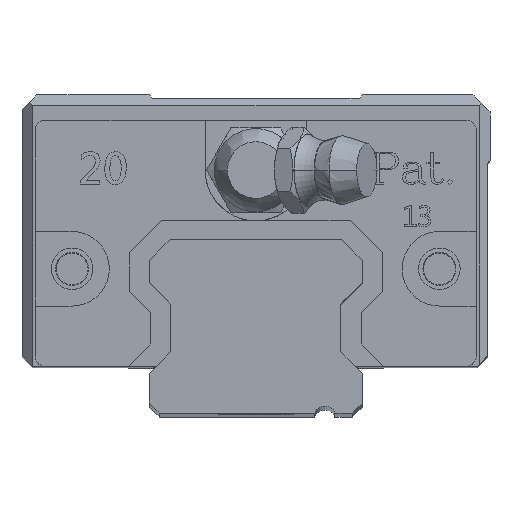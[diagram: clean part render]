
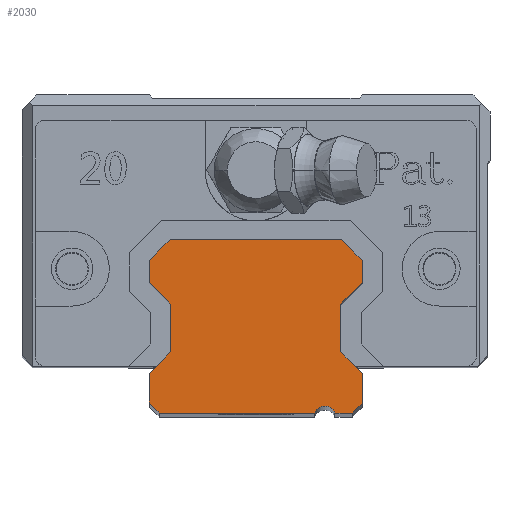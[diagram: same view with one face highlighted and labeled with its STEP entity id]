
A CAD part, top view. The second image highlights one B-rep face of the part: STEP entity #2030.
In plain terms, the highlighted planar face has unit normal (0, 0, 1).
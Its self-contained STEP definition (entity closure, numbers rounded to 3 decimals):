
#22 = CARTESIAN_POINT ( 'NONE',  ( -10., -10.6, 110. ) ) ;
#183 = CARTESIAN_POINT ( 'NONE',  ( -10., -10.6, 110. ) ) ;
#309 = VERTEX_POINT ( 'NONE', #2161 ) ;
#451 = LINE ( 'NONE', #9880, #15889 ) ;
#611 = CARTESIAN_POINT ( 'NONE',  ( 8., -4.1, 110. ) ) ;
#790 = CARTESIAN_POINT ( 'NONE',  ( 10., -13.4, 110. ) ) ;
#882 = DIRECTION ( 'NONE',  ( 0., 1., 0. ) ) ;
#885 = VECTOR ( 'NONE', #4544, 1000. ) ;
#904 = ORIENTED_EDGE ( 'NONE', *, *, #15489, .T. ) ;
#907 = VERTEX_POINT ( 'NONE', #15249 ) ;
#919 = CARTESIAN_POINT ( 'NONE',  ( -10., -13.4, 110. ) ) ;
#1067 = CARTESIAN_POINT ( 'NONE',  ( -9.065, -14.335, 110. ) ) ;
#1468 = VECTOR ( 'NONE', #11359, 1000. ) ;
#1483 = CARTESIAN_POINT ( 'NONE',  ( -9.065, -14.335, 110. ) ) ;
#1647 = VERTEX_POINT ( 'NONE', #15041 ) ;
#1717 = ORIENTED_EDGE ( 'NONE', *, *, #11916, .T. ) ;
#1934 = CARTESIAN_POINT ( 'NONE',  ( -10., 0., 110. ) ) ;
#2030 = ADVANCED_FACE ( 'NONE', ( #9271 ), #3998, .T. ) ;
#2161 = CARTESIAN_POINT ( 'NONE',  ( 5.565, -14.335, 110. ) ) ;
#2289 = ORIENTED_EDGE ( 'NONE', *, *, #12061, .T. ) ;
#2307 = CARTESIAN_POINT ( 'NONE',  ( 10., -2.1, 110. ) ) ;
#2326 = EDGE_CURVE ( 'NONE', #907, #12323, #7331, .T. ) ;
#2413 = VERTEX_POINT ( 'NONE', #15464 ) ;
#2704 = LINE ( 'NONE', #3054, #11291 ) ;
#2771 = EDGE_CURVE ( 'NONE', #6234, #4672, #16286, .T. ) ;
#2804 = CARTESIAN_POINT ( 'NONE',  ( 8.035, 1.965, 110. ) ) ;
#2822 = CARTESIAN_POINT ( 'NONE',  ( 10., 0., 110. ) ) ;
#2894 = DIRECTION ( 'NONE',  ( 1., 0., 0. ) ) ;
#3010 = ORIENTED_EDGE ( 'NONE', *, *, #5416, .T. ) ;
#3054 = CARTESIAN_POINT ( 'NONE',  ( 10., -10.6, 110. ) ) ;
#3222 = ORIENTED_EDGE ( 'NONE', *, *, #14988, .T. ) ;
#3241 = EDGE_CURVE ( 'NONE', #5749, #6250, #13335, .T. ) ;
#3400 = CARTESIAN_POINT ( 'NONE',  ( 8.035, 1.965, 110. ) ) ;
#3643 = DIRECTION ( 'NONE',  ( -0.707, 0.707, 0. ) ) ;
#3702 = VECTOR ( 'NONE', #5254, 1000. ) ;
#3885 = CARTESIAN_POINT ( 'NONE',  ( -8., -8.6, 110. ) ) ;
#3998 = PLANE ( 'NONE',  #4506 ) ;
#4028 = VECTOR ( 'NONE', #16995, 1000. ) ;
#4269 = VECTOR ( 'NONE', #10687, 1000. ) ;
#4280 = ORIENTED_EDGE ( 'NONE', *, *, #9233, .T. ) ;
#4361 = VERTEX_POINT ( 'NONE', #14700 ) ;
#4489 = VERTEX_POINT ( 'NONE', #22 ) ;
#4506 = AXIS2_PLACEMENT_3D ( 'NONE', #17240, #15826, #12072 ) ;
#4541 = VERTEX_POINT ( 'NONE', #10147 ) ;
#4544 = DIRECTION ( 'NONE',  ( -1., 0., 0. ) ) ;
#4553 = VECTOR ( 'NONE', #2894, 1000. ) ;
#4663 = ORIENTED_EDGE ( 'NONE', *, *, #10725, .T. ) ;
#4672 = VERTEX_POINT ( 'NONE', #1067 ) ;
#4867 = VERTEX_POINT ( 'NONE', #1934 ) ;
#4884 = ORIENTED_EDGE ( 'NONE', *, *, #15764, .T. ) ;
#5003 = ORIENTED_EDGE ( 'NONE', *, *, #10110, .T. ) ;
#5215 = VECTOR ( 'NONE', #9712, 1000. ) ;
#5230 = DIRECTION ( 'NONE',  ( 0.707, -0.707, 0. ) ) ;
#5254 = DIRECTION ( 'NONE',  ( 0., -1., 0. ) ) ;
#5416 = EDGE_CURVE ( 'NONE', #4867, #5749, #11758, .T. ) ;
#5749 = VERTEX_POINT ( 'NONE', #6892 ) ;
#6234 = VERTEX_POINT ( 'NONE', #919 ) ;
#6250 = VERTEX_POINT ( 'NONE', #10270 ) ;
#6620 = EDGE_CURVE ( 'NONE', #4541, #4361, #15478, .T. ) ;
#6892 = CARTESIAN_POINT ( 'NONE',  ( -10., -2.1, 110. ) ) ;
#7331 = LINE ( 'NONE', #790, #12094 ) ;
#7463 = CARTESIAN_POINT ( 'NONE',  ( 10., -2.1, 110. ) ) ;
#7589 = VERTEX_POINT ( 'NONE', #17452 ) ;
#7768 = CARTESIAN_POINT ( 'NONE',  ( -8.035, 1.965, 110. ) ) ;
#7846 = DIRECTION ( 'NONE',  ( -0.707, -0.707, 0. ) ) ;
#8069 = EDGE_CURVE ( 'NONE', #4361, #14358, #8475, .T. ) ;
#8147 = CARTESIAN_POINT ( 'NONE',  ( -10., -13.4, 110. ) ) ;
#8286 = VECTOR ( 'NONE', #3643, 1000. ) ;
#8293 = VERTEX_POINT ( 'NONE', #2822 ) ;
#8444 = EDGE_LOOP ( 'NONE', ( #904, #15341, #10280, #2289, #9977, #5003, #14270, #1717, #17093, #15924, #4280, #8591, #4663, #4884, #3010, #12212, #8942, #3222 ) ) ;
#8475 = LINE ( 'NONE', #611, #1468 ) ;
#8494 = AXIS2_PLACEMENT_3D ( 'NONE', #15836, #17249, #12992 ) ;
#8591 = ORIENTED_EDGE ( 'NONE', *, *, #14303, .T. ) ;
#8942 = ORIENTED_EDGE ( 'NONE', *, *, #12677, .T. ) ;
#8964 = DIRECTION ( 'NONE',  ( 0.707, 0.707, 0. ) ) ;
#9214 = CARTESIAN_POINT ( 'NONE',  ( -10., 0., 110. ) ) ;
#9233 = EDGE_CURVE ( 'NONE', #14358, #8293, #11409, .T. ) ;
#9271 = FACE_OUTER_BOUND ( 'NONE', #8444, .T. ) ;
#9395 = VECTOR ( 'NONE', #16844, 1000. ) ;
#9442 = EDGE_CURVE ( 'NONE', #7589, #1647, #451, .T. ) ;
#9462 = CARTESIAN_POINT ( 'NONE',  ( 10., -10.6, 110. ) ) ;
#9712 = DIRECTION ( 'NONE',  ( 0., -1., 0. ) ) ;
#9880 = CARTESIAN_POINT ( 'NONE',  ( 7.435, -14.335, 110. ) ) ;
#9977 = ORIENTED_EDGE ( 'NONE', *, *, #9442, .T. ) ;
#10110 = EDGE_CURVE ( 'NONE', #1647, #907, #17045, .T. ) ;
#10147 = CARTESIAN_POINT ( 'NONE',  ( 8., -8.6, 110. ) ) ;
#10197 = VERTEX_POINT ( 'NONE', #2804 ) ;
#10270 = CARTESIAN_POINT ( 'NONE',  ( -8., -4.1, 110. ) ) ;
#10280 = ORIENTED_EDGE ( 'NONE', *, *, #11511, .T. ) ;
#10485 = VECTOR ( 'NONE', #13771, 1000. ) ;
#10518 = VECTOR ( 'NONE', #8964, 1000. ) ;
#10687 = DIRECTION ( 'NONE',  ( 0.707, -0.707, 0. ) ) ;
#10725 = EDGE_CURVE ( 'NONE', #10197, #2413, #16635, .T. ) ;
#10979 = LINE ( 'NONE', #1483, #4553 ) ;
#11291 = VECTOR ( 'NONE', #13807, 1000. ) ;
#11359 = DIRECTION ( 'NONE',  ( 0.707, 0.707, 0. ) ) ;
#11409 = LINE ( 'NONE', #7463, #9395 ) ;
#11491 = DIRECTION ( 'NONE',  ( -0.707, -0.707, 0. ) ) ;
#11511 = EDGE_CURVE ( 'NONE', #4672, #309, #10979, .T. ) ;
#11665 = CARTESIAN_POINT ( 'NONE',  ( -8., -8.6, 110. ) ) ;
#11758 = LINE ( 'NONE', #9214, #3702 ) ;
#11875 = LINE ( 'NONE', #7768, #14497 ) ;
#11916 = EDGE_CURVE ( 'NONE', #12323, #4541, #2704, .T. ) ;
#12061 = EDGE_CURVE ( 'NONE', #309, #7589, #16120, .T. ) ;
#12072 = DIRECTION ( 'NONE',  ( 1., 0., 0. ) ) ;
#12094 = VECTOR ( 'NONE', #882, 1000. ) ;
#12174 = VECTOR ( 'NONE', #5230, 1000. ) ;
#12212 = ORIENTED_EDGE ( 'NONE', *, *, #3241, .T. ) ;
#12257 = LINE ( 'NONE', #183, #5215 ) ;
#12323 = VERTEX_POINT ( 'NONE', #9462 ) ;
#12677 = EDGE_CURVE ( 'NONE', #6250, #15809, #15273, .T. ) ;
#12992 = DIRECTION ( 'NONE',  ( 1., 0., 0. ) ) ;
#13087 = LINE ( 'NONE', #11665, #14510 ) ;
#13335 = LINE ( 'NONE', #14676, #12174 ) ;
#13705 = DIRECTION ( 'NONE',  ( 1., 0., 0. ) ) ;
#13771 = DIRECTION ( 'NONE',  ( 0., -1., 0. ) ) ;
#13807 = DIRECTION ( 'NONE',  ( -0.707, 0.707, 0. ) ) ;
#14028 = CARTESIAN_POINT ( 'NONE',  ( -8., -4.1, 110. ) ) ;
#14246 = CARTESIAN_POINT ( 'NONE',  ( 8., -8.6, 110. ) ) ;
#14270 = ORIENTED_EDGE ( 'NONE', *, *, #2326, .T. ) ;
#14303 = EDGE_CURVE ( 'NONE', #8293, #10197, #15817, .T. ) ;
#14358 = VERTEX_POINT ( 'NONE', #2307 ) ;
#14497 = VECTOR ( 'NONE', #7846, 1000. ) ;
#14510 = VECTOR ( 'NONE', #11491, 1000. ) ;
#14667 = CARTESIAN_POINT ( 'NONE',  ( 10., 0., 110. ) ) ;
#14676 = CARTESIAN_POINT ( 'NONE',  ( -10., -2.1, 110. ) ) ;
#14700 = CARTESIAN_POINT ( 'NONE',  ( 8., -4.1, 110. ) ) ;
#14988 = EDGE_CURVE ( 'NONE', #15809, #4489, #13087, .T. ) ;
#15041 = CARTESIAN_POINT ( 'NONE',  ( 9.065, -14.335, 110. ) ) ;
#15249 = CARTESIAN_POINT ( 'NONE',  ( 10., -13.4, 110. ) ) ;
#15273 = LINE ( 'NONE', #14028, #10485 ) ;
#15341 = ORIENTED_EDGE ( 'NONE', *, *, #2771, .T. ) ;
#15464 = CARTESIAN_POINT ( 'NONE',  ( -8.035, 1.965, 110. ) ) ;
#15478 = LINE ( 'NONE', #14246, #4028 ) ;
#15489 = EDGE_CURVE ( 'NONE', #4489, #6234, #12257, .T. ) ;
#15709 = CARTESIAN_POINT ( 'NONE',  ( 9.065, -14.335, 110. ) ) ;
#15764 = EDGE_CURVE ( 'NONE', #2413, #4867, #11875, .T. ) ;
#15809 = VERTEX_POINT ( 'NONE', #3885 ) ;
#15817 = LINE ( 'NONE', #14667, #8286 ) ;
#15826 = DIRECTION ( 'NONE',  ( 0., 0., 1. ) ) ;
#15836 = CARTESIAN_POINT ( 'NONE',  ( 6.5, -14.69, 110. ) ) ;
#15889 = VECTOR ( 'NONE', #13705, 1000. ) ;
#15924 = ORIENTED_EDGE ( 'NONE', *, *, #8069, .T. ) ;
#16120 = CIRCLE ( 'NONE', #8494, 1. ) ;
#16286 = LINE ( 'NONE', #8147, #4269 ) ;
#16635 = LINE ( 'NONE', #3400, #885 ) ;
#16844 = DIRECTION ( 'NONE',  ( 0., 1., 0. ) ) ;
#16995 = DIRECTION ( 'NONE',  ( 0., 1., 0. ) ) ;
#17045 = LINE ( 'NONE', #15709, #10518 ) ;
#17093 = ORIENTED_EDGE ( 'NONE', *, *, #6620, .T. ) ;
#17240 = CARTESIAN_POINT ( 'NONE',  ( 6.5, -14.69, 110. ) ) ;
#17249 = DIRECTION ( 'NONE',  ( 0., 0., -1. ) ) ;
#17452 = CARTESIAN_POINT ( 'NONE',  ( 7.435, -14.335, 110. ) ) ;
